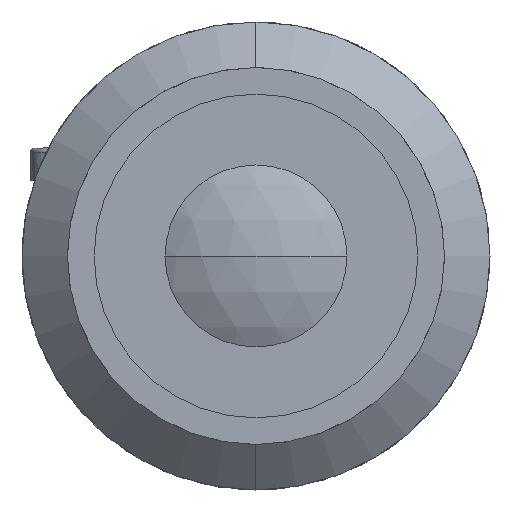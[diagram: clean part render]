
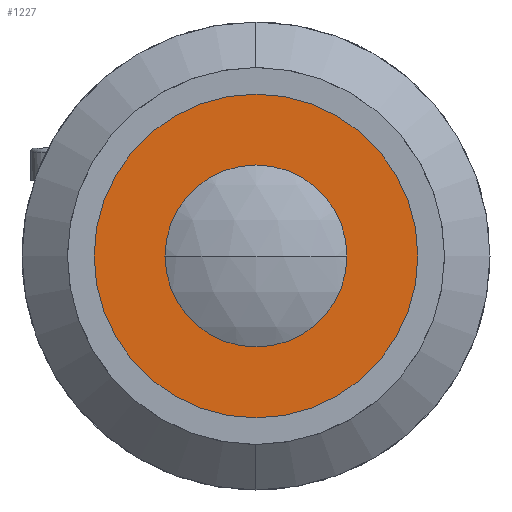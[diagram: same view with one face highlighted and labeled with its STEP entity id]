
A CAD part, left-side view. The second image highlights one B-rep face of the part: STEP entity #1227.
In plain terms, the highlighted planar face has unit normal (-1, 0, 0).
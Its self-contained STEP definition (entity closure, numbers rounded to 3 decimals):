
#9 = EDGE_LOOP ( 'NONE', ( #2104, #1565 ) ) ;
#151 = CARTESIAN_POINT ( 'NONE',  ( 3.8, 0., 0. ) ) ;
#213 = PLANE ( 'NONE',  #1745 ) ;
#239 = EDGE_CURVE ( 'NONE', #2409, #1527, #735, .T. ) ;
#282 = CIRCLE ( 'NONE', #2759, 7. ) ;
#357 = CARTESIAN_POINT ( 'NONE',  ( 3.8, 0., -7. ) ) ;
#433 = DIRECTION ( 'NONE',  ( 0., 0., 1. ) ) ;
#503 = DIRECTION ( 'NONE',  ( 1., 0., 0. ) ) ;
#510 = CARTESIAN_POINT ( 'NONE',  ( 3.8, 0., 0. ) ) ;
#735 = CIRCLE ( 'NONE', #1191, 13.5 ) ;
#772 = CIRCLE ( 'NONE', #1520, 13.5 ) ;
#794 = DIRECTION ( 'NONE',  ( 0., 0., 1. ) ) ;
#996 = VERTEX_POINT ( 'NONE', #357 ) ;
#1103 = EDGE_CURVE ( 'NONE', #996, #3445, #282, .T. ) ;
#1191 = AXIS2_PLACEMENT_3D ( 'NONE', #3363, #3340, #3286 ) ;
#1227 = ADVANCED_FACE ( 'NONE', ( #2830, #2244 ), #213, .F. ) ;
#1320 = CARTESIAN_POINT ( 'NONE',  ( 3.8, 13.5, 0. ) ) ;
#1326 = CARTESIAN_POINT ( 'NONE',  ( 3.8, 0., 0. ) ) ;
#1520 = AXIS2_PLACEMENT_3D ( 'NONE', #1326, #3260, #1607 ) ;
#1527 = VERTEX_POINT ( 'NONE', #3142 ) ;
#1565 = ORIENTED_EDGE ( 'NONE', *, *, #239, .T. ) ;
#1607 = DIRECTION ( 'NONE',  ( 0., 0., 1. ) ) ;
#1745 = AXIS2_PLACEMENT_3D ( 'NONE', #1320, #503, #2452 ) ;
#1782 = EDGE_CURVE ( 'NONE', #3445, #996, #2838, .T. ) ;
#1793 = CARTESIAN_POINT ( 'NONE',  ( 3.8, 0., 7. ) ) ;
#1971 = AXIS2_PLACEMENT_3D ( 'NONE', #510, #2457, #794 ) ;
#2101 = DIRECTION ( 'NONE',  ( -1., 0., 0. ) ) ;
#2104 = ORIENTED_EDGE ( 'NONE', *, *, #2817, .T. ) ;
#2180 = EDGE_LOOP ( 'NONE', ( #2860, #3167 ) ) ;
#2244 = FACE_OUTER_BOUND ( 'NONE', #9, .T. ) ;
#2409 = VERTEX_POINT ( 'NONE', #3194 ) ;
#2452 = DIRECTION ( 'NONE',  ( 0., 0., -1. ) ) ;
#2457 = DIRECTION ( 'NONE',  ( -1., 0., 0. ) ) ;
#2759 = AXIS2_PLACEMENT_3D ( 'NONE', #151, #2101, #433 ) ;
#2817 = EDGE_CURVE ( 'NONE', #1527, #2409, #772, .T. ) ;
#2830 = FACE_BOUND ( 'NONE', #2180, .T. ) ;
#2838 = CIRCLE ( 'NONE', #1971, 7. ) ;
#2860 = ORIENTED_EDGE ( 'NONE', *, *, #1782, .F. ) ;
#3142 = CARTESIAN_POINT ( 'NONE',  ( 3.8, 0., 13.5 ) ) ;
#3167 = ORIENTED_EDGE ( 'NONE', *, *, #1103, .F. ) ;
#3194 = CARTESIAN_POINT ( 'NONE',  ( 3.8, 0., -13.5 ) ) ;
#3260 = DIRECTION ( 'NONE',  ( -1., 0., 0. ) ) ;
#3286 = DIRECTION ( 'NONE',  ( 0., 0., 1. ) ) ;
#3340 = DIRECTION ( 'NONE',  ( -1., 0., 0. ) ) ;
#3363 = CARTESIAN_POINT ( 'NONE',  ( 3.8, 0., 0. ) ) ;
#3445 = VERTEX_POINT ( 'NONE', #1793 ) ;
